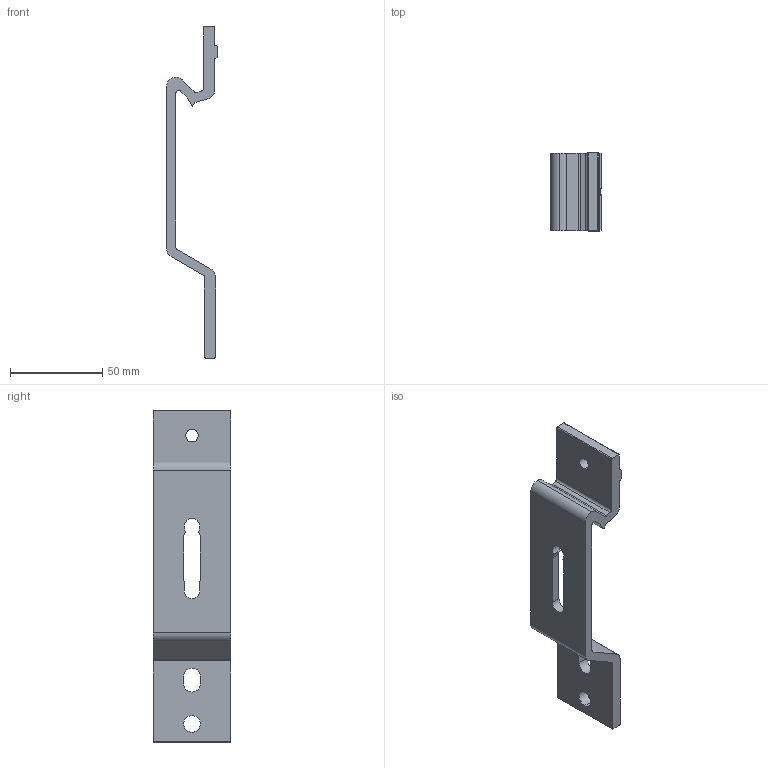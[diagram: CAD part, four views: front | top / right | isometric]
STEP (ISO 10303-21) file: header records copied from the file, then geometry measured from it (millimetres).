
FILE_DESCRIPTION (( 'STEP AP214' ), '1' );
FILE_NAME ('FAVBS F45.step', '2017-04-07T11:10:49', ( '' ), ( '' ), 'SwSTEP 2.0', 'SolidWorks 2016', '' );
FILE_SCHEMA (( 'AUTOMOTIVE_DESIGN' ));
Length unit declared in the file: millimetre
Products named in the file (1): FAVBS F45
Bounding box: 27.5 x 42 x 180 mm (x, y, z)
Volume: 47477.9 mm3; surface area: 21318.5 mm2
Topology: 1 solids, 1 shells, 61 faces, 180 edges, 120 vertices
Faces by surface type: plane 31, cylinder 30
Entity records: 2120 total; most frequent: CARTESIAN_POINT 394, ORIENTED_EDGE 360, DIRECTION 358, EDGE_CURVE 180, AXIS2_PLACEMENT_3D 122, VERTEX_POINT 120, VECTOR 114, LINE 114
